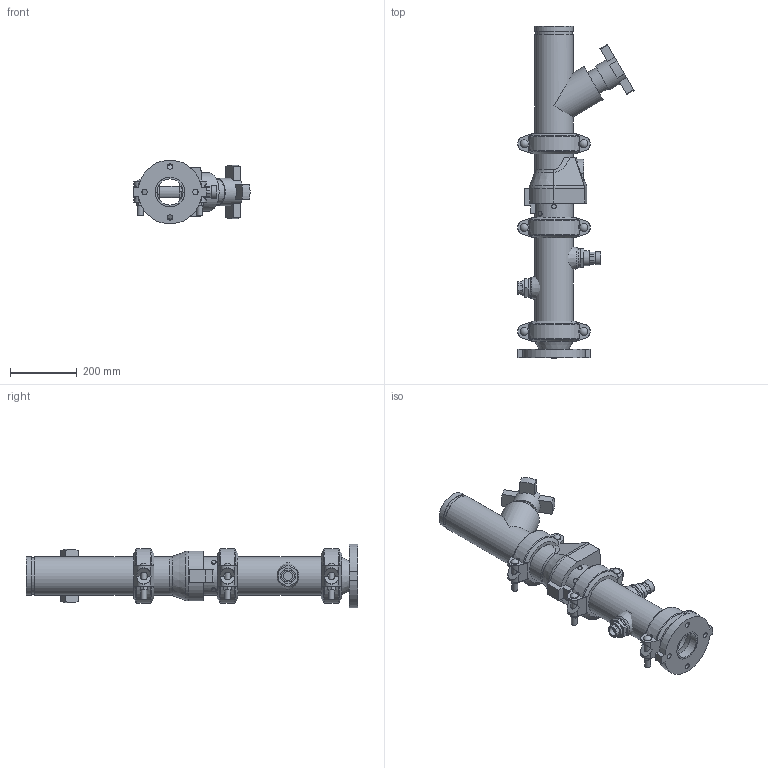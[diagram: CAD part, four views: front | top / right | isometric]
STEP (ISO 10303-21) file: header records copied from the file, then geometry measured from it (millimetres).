
FILE_DESCRIPTION(/* description */ ('VIC DVI PUMP DROP VERT S/383 (OGSxFLG) (S/924-0.75)','CAx-IF Rec.Pracs.---Representation and Presentation of Product Manufacturing Information (PMI)---4.0---2014-10-13'),/* implementation_level */ '2;1');
FILE_NAME(/* name */ 'C:\Users\Public\Documents\Victaulic.Temp\A849\Victaulic_IPS_Vertical DVI_CL 150_Series 383 (OGSxFLG)_924 (0.75)_04.0x03.0 (100x80).stp',/* time_stamp */ '2022-07-25T11:38:59+02:00',/* author */ ('Vjadhav'),/* organization */ ('Victaulic'),/* preprocessor_version */ 'ST-DEVELOPER v18',/* originating_system */ 'Autodesk Inventor 2020',/* authorisation */ '');
FILE_SCHEMA (('AP242_MANAGED_MODEL_BASED_3D_ENGINEERING_MIM_LF { 1 0 10303 442 1 1 4 }'));
Length unit declared in the file: inch
Products named in the file (9): 383_924 (0.75)-04.0x03.0; 741-03.0; 050-04.0x03.0; Pipe-04.0; 177N-04.0; 789-04.0; 779-04.0; 924-04.0x0.75; 923-04.0x0.75
Assembly tree (10 placements, depth 2):
  383_924 (0.75)-04.0x03.0
    741-03.0
    050-04.0x03.0
    177N-04.0  x3
    Pipe-04.0
    789-04.0
    779-04.0
    924-04.0x0.75
    923-04.0x0.75
Bounding box: 347.73 x 993.9 x 189.82 mm (x, y, z)
Volume: 7651238.5 mm3; surface area: 1247584.2 mm2
Topology: 10 solids, 10 shells, 533 faces, 1430 edges, 954 vertices
Faces by surface type: plane 311, cylinder 177, cone 19, torus 18, sphere 6, bspline 2
Full cylindrical faces by diameter (mm): 13.716 x2, 15.875 x4, 17.424 x6, 23.495 x6, 26.67 x2, 38.608 x1, 45.974 x4, 55.626 x2, 72.39 x1, 77.927 x1, 82.55 x1, 84.938 x1, 88.9 x3, 101.6 x3, 102.26 x4, 110.084 x7, 114.3 x19
Entity records: 12053 total; most frequent: CARTESIAN_POINT 2438, DIRECTION 1979, ORIENTED_EDGE 1808, EDGE_CURVE 904, AXIS2_PLACEMENT_3D 753, VERTEX_POINT 610, LINE 473, VECTOR 473
